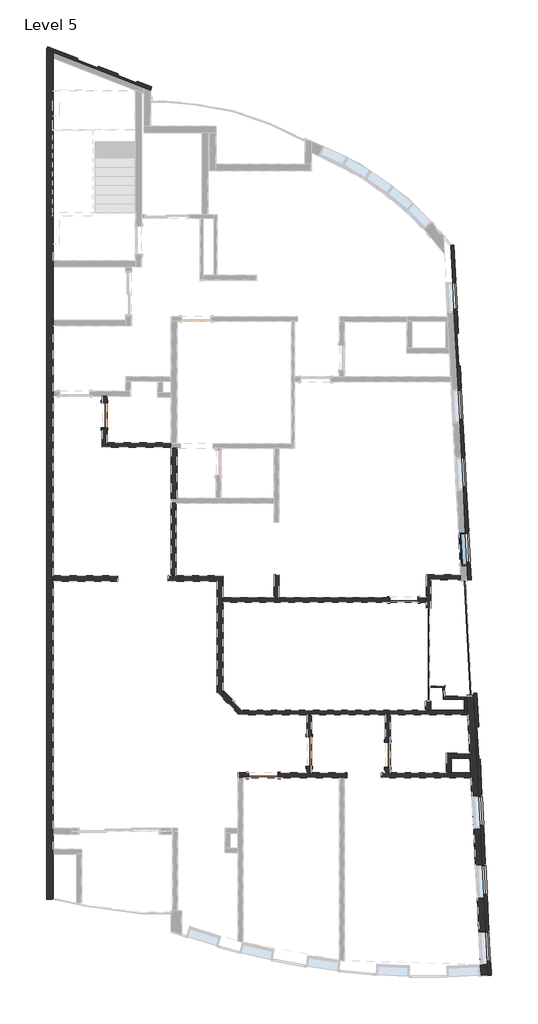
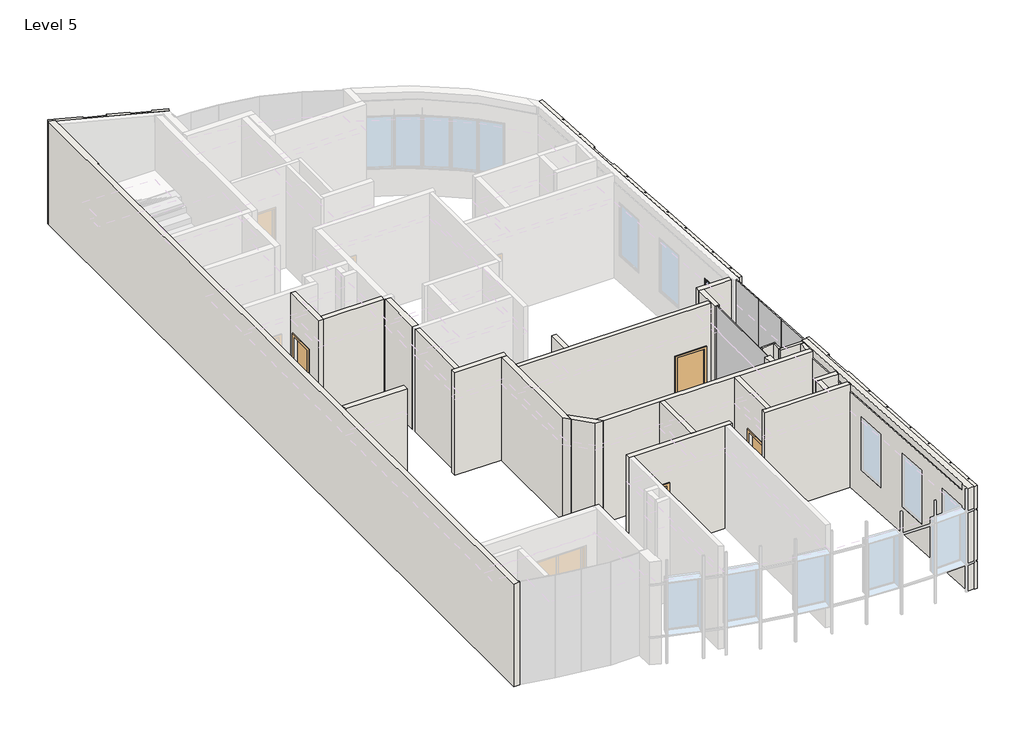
# One storey, part 2 of 5: 28 walls, 5 doors, 4 plates, 1 window.
"""IFC4 building model written with IfcOpenShell, lengths in millimetres."""

from ifc_helpers import new_model, si_unit, frame, origin, place, context, project, spatial, polyline, circle_curve, outline, extrude, faceted_brep, transform, mapped, element, save
from ifc_brep_helpers import plane_surface, cylinder_surface, revolved_surface, advanced_brep
from components import m_single_flush_0762_x_2134mm_8c18b9de, m_single_flush_0762_x_2134mm_1533e4c5, m_single_flush_0864_x_2032mm_5b632350, m_single_flush_0915_x_2134mm_138fd904, system_panel_glazed_de1ac752, system_panel_glazed_2b276406, system_panel_glazed_4e3138d7, wall_fe2dcc62, wall_89598529, m_fixed_1000_x_1830mm_2_3397196e

model = new_model("IFC4")

# Units and contexts
model_context = context("Model", 3, world=origin())
ifc_project = project(units=[si_unit("LENGTHUNIT", "METRE", prefix="MILLI")], contexts=[model_context])

# Site, building, storey
site = spatial("IfcSite", under=ifc_project)
building = spatial("IfcBuilding", under=site)
storey = spatial("IfcBuildingStorey", under=building, Name="Level 5", Elevation=18500.0)

# Doors
placement = place(None, origin())
m_single_flush_0762_x_2134mm_shape = m_single_flush_0762_x_2134mm_8c18b9de(model_context)
element("IfcDoor", 1, ObjectType="M_Single-Flush : 0762 x 2134mm", at=placement, inside=storey, context=model_context, shape_type="MappedRepresentation", body=[
    mapped(m_single_flush_0762_x_2134mm_shape, transform((1524.9578776, 3975.8830582, 18500.0), x_axis=(0.0, 1.0, 0.0), y_axis=(-1.0, 0.0, 0.0), z_axis=(0.0, 0.0, 1.0))),
])
m_single_flush_0762_x_2134mm_2_shape = m_single_flush_0762_x_2134mm_1533e4c5(model_context)
element("IfcDoor", 2, ObjectType="M_Single-Flush : 0762 x 2134mm", at=placement, inside=storey, context=model_context, shape_type="MappedRepresentation", body=[
    mapped(m_single_flush_0762_x_2134mm_2_shape, transform((10205.2907737, -6412.7981953, 18500.0), x_axis=(0.0, -1.0, 0.0), y_axis=(1.0, 0.0, 0.0), z_axis=(0.0, 0.0, 1.0))),
])
m_single_flush_0864_x_2032mm_shape = m_single_flush_0864_x_2032mm_5b632350(model_context)
element("IfcDoor", 3, ObjectType="M_Single-Flush : 0864 x 2032mm", at=placement, inside=storey, context=model_context, shape_type="MappedRepresentation", body=[
    mapped(m_single_flush_0864_x_2032mm_shape, transform((10697.9578778, -1678.9547298, 18500.0), x_axis=(1.0, 0.0, 0.0), y_axis=(0.0, 1.0, 0.0), z_axis=(0.0, 0.0, 1.0))),
])
m_single_flush_0915_x_2134mm_shape = m_single_flush_0915_x_2134mm_138fd904(model_context)
element("IfcDoor", 4, ObjectType="M_Single-Flush : 0915 x 2134mm", at=placement, inside=storey, context=model_context, shape_type="MappedRepresentation", body=[
    mapped(m_single_flush_0915_x_2134mm_shape, transform((6387.7907737, -7048.7981953, 18500.0), x_axis=(-1.0, 0.0, 0.0), y_axis=(0.0, -1.0, 0.0), z_axis=(0.0, 0.0, 1.0))),
])
element("IfcDoor", 5, ObjectType="M_Single-Flush : 0915 x 2134mm", at=placement, inside=storey, context=model_context, shape_type="MappedRepresentation", body=[
    mapped(m_single_flush_0915_x_2134mm_shape, transform((7795.2909314, -6316.2981953, 18500.0), x_axis=(0.0, -1.0, 0.0), y_axis=(1.0, 0.0, 0.0), z_axis=(0.0, 0.0, 1.0))),
])

# Plates
system_panel_glazed_shape = system_panel_glazed_de1ac752(model_context)
element("IfcPlate", 6, ObjectType="System Panel : Glazed", at=placement, inside=storey, context=model_context, shape_type="MappedRepresentation", body=[
    mapped(system_panel_glazed_shape, transform((12744.4041239, -4004.5629241, 18500.0), x_axis=(-0.05083502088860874, 0.9987070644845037, 0.0), y_axis=(-0.9987070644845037, -0.05083502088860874, 0.0), z_axis=(0.0, 0.0, 1.0))),
])
element("IfcPlate", 7, ObjectType="System Panel : Glazed", at=placement, inside=storey, context=model_context, shape_type="MappedRepresentation", body=[
    mapped(system_panel_glazed_shape, transform((12685.4354997, -2846.0627293, 18500.0), x_axis=(-0.05083502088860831, 0.9987070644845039, 0.0), y_axis=(-0.9987070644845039, -0.05083502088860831, 0.0), z_axis=(0.0, 0.0, 1.0))),
])
system_panel_glazed_2_shape = system_panel_glazed_2b276406(model_context)
element("IfcPlate", 8, ObjectType="System Panel : Glazed", at=placement, inside=storey, context=model_context, shape_type="MappedRepresentation", body=[
    mapped(system_panel_glazed_2_shape, transform((12626.3225461, -1684.727034, 18500.0), x_axis=(-0.05083502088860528, 0.998707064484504, 0.0), y_axis=(-0.998707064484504, -0.05083502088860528, 0.0), z_axis=(0.0, 0.0, 1.0))),
])
system_panel_glazed_3_shape = system_panel_glazed_4e3138d7(model_context)
element("IfcPlate", 9, ObjectType="System Panel : Glazed", at=placement, inside=storey, context=model_context, shape_type="MappedRepresentation", body=[
    mapped(system_panel_glazed_3_shape, transform((11490.9685725, -3358.899384, 18500.0), x_axis=(0.0, 1.0, 0.0), y_axis=(-1.0, 0.0, 0.0), z_axis=(0.0, 0.0, 1.0))),
])

# Walls
element("IfcWall", 10, ObjectType="Generic - 15cm-gypsu-2boith", at=placement, inside=storey, context=model_context, shape_type="Brep", body=[
    faceted_brep([(11349.9578778, -1603.9547298, 18500.0), (11129.9578778, -1603.9547298, 18500.0), (11129.9578778, -1603.9547298, 20532.0), (10265.9578778, -1603.9547298, 20532.0), (10265.9578778, -1603.9547298, 18500.0), (6869.9578779, -1603.9547298, 18500.0), (6719.9578779, -1603.9547298, 18500.0), (5149.9578778, -1603.9547298, 18500.0), (5149.9578778, -1603.9547298, 22000.0), (6719.9578779, -1603.9547298, 22000.0), (6869.9578779, -1603.9547298, 22000.0), (11349.9578778, -1603.9547298, 22000.0), (11129.9578778, -1753.9547298, 20532.0), (11129.9578778, -1753.9547298, 18500.0), (11349.9578778, -1753.9547298, 18500.0), (11349.9578778, -1753.9547298, 22000.0), (5149.9578778, -1753.9547298, 22000.0), (5149.9578778, -1753.9547298, 18500.0), (10265.9578778, -1753.9547298, 18500.0), (10265.9578778, -1753.9547298, 20532.0)], [[[0, 1, 2, 3, 4, 5, 6, 7, 8, 9, 10, 11]], [[12, 13, 14, 15, 16, 17, 18, 19]], [[18, 17, 7, 6, 5, 4]], [[14, 13, 1, 0]], [[11, 10, 9, 8, 16, 15]], [[0, 11, 15, 14]], [[8, 7, 17, 16]], [[2, 1, 13, 12]], [[3, 2, 12, 19]], [[4, 3, 19, 18]]]),
])
element("IfcWall", 11, ObjectType="Generic - 15cm-gypsu-2boith", at=placement, inside=storey, context=model_context, shape_type="Brep", body=[
    faceted_brep([(12423.9334548, -903.8603265, 18500.0), (11379.9578778, -903.8603265, 18500.0), (11379.9578778, -903.8603265, 22000.0), (12423.9334548, -903.8603265, 22000.0), (12423.9334548, -1053.8603265, 18500.0), (12423.9334548, -1053.8603265, 22000.0), (11529.9578778, -1053.8603265, 22000.0), (11379.9578778, -1053.8603265, 22000.0), (11379.9578778, -1053.8603265, 18500.0), (11529.9578778, -1053.8603265, 18500.0)], [[[0, 1, 2, 3]], [[4, 5, 6, 7, 8, 9]], [[1, 0, 4, 9, 8]], [[3, 2, 7, 6, 5]], [[0, 3, 5, 4]], [[2, 1, 8, 7]]]),
])
element("IfcWall", 12, ObjectType="Generic - 15cm-gypsu-2boith", at=placement, inside=storey, context=model_context, shape_type="SweptSolid", body=[
    extrude(outline(polyline([(11379.9578778, -1933.9547288), (11379.9578778, -1053.8603265), (11529.9578778, -1053.8603265), (11529.9578778, -1933.9547288), (11379.9578778, -1933.9547288)])), frame((0.0, 0.0, 18500.0), z_axis=(0.0, 0.0, 1.0), x_axis=(1.0, 0.0, 0.0)), (0.0, 0.0, 1.0), 3500.0),
])
element("IfcWall", 13, ObjectType="Generic - 15cm-gypsu-2boith", at=placement, inside=storey, context=model_context, shape_type="SweptSolid", body=[
    extrude(outline(polyline([(3569.9578779, -933.1221936), (3569.9578779, 1276.8778064), (3719.9578779, 1276.8778064), (3719.9578779, -933.1221936), (3569.9578779, -933.1221936)])), frame((0.0, 0.0, 18500.0), z_axis=(0.0, 0.0, 1.0), x_axis=(1.0, 0.0, 0.0)), (0.0, 0.0, 1.0), 3500.0),
])
element("IfcWall", 14, ObjectType="Generic - 18cm-gypsu-2boith 2", at=placement, inside=storey, context=model_context, shape_type="Brep", body=[
    faceted_brep([(5149.9578778, -933.1221936, 18500.0), (3719.9578779, -933.1221936, 18500.0), (3569.9578779, -933.1221936, 18500.0), (3473.9578779, -933.1221936, 18500.0), (3473.9578779, -933.1221936, 22000.0), (3569.9578779, -933.1221936, 22000.0), (3719.9578779, -933.1221936, 22000.0), (5149.9578778, -933.1221936, 22000.0), (5149.9578778, -1113.1221936, 18500.0), (5149.9578778, -1113.1221936, 22000.0), (4969.9578778, -1113.1221936, 22000.0), (3473.9578779, -1113.1221936, 22000.0), (3473.9578779, -1113.1221936, 18500.0), (4969.9578778, -1113.1221936, 18500.0)], [[[0, 1, 2, 3, 4, 5, 6, 7]], [[8, 9, 10, 11, 12, 13]], [[3, 2, 1, 0, 8, 13, 12]], [[4, 3, 12, 11]], [[7, 6, 5, 4, 11, 10, 9]], [[0, 7, 9, 8]]]),
])
element("IfcWall", 15, ObjectType="Generic - 18cm-gypsu-2boith 2", at=placement, inside=storey, context=model_context, shape_type="Brep", body=[
    faceted_brep([(4969.9578778, -1113.1221936, 18500.0), (4969.9578778, -4517.9715169, 18500.0), (4969.9578778, -4517.9715169, 22000.0), (4969.9578778, -1113.1221936, 22000.0), (5149.9578778, -1113.1221936, 18500.0), (5149.9578778, -1113.1221936, 22000.0), (5149.9578778, -1603.9547298, 22000.0), (5149.9578778, -1753.9547298, 22000.0), (5149.9578778, -4443.9569428, 22000.0), (5149.9578778, -4699.8400417, 22000.0), (5149.9578778, -4699.8400417, 18500.0), (5149.9578778, -4443.9569428, 18500.0), (5149.9578778, -1753.9547298, 18500.0), (5149.9578778, -1603.9547298, 18500.0)], [[[0, 1, 2, 3]], [[4, 5, 6, 7, 8, 9, 10, 11, 12, 13]], [[1, 0, 4, 13, 12, 11, 10]], [[3, 2, 9, 8, 7, 6, 5]], [[2, 1, 10, 9]], [[0, 3, 5, 4]]]),
])
element("IfcWall", 16, ObjectType="Generic - 18cm-gypsu-2boith 2", at=placement, inside=storey, context=model_context, shape_type="Brep", body=[
    faceted_brep([(5149.9578778, -4699.8400417, 18500.0), (5643.7897147, -5198.7981953, 18500.0), (5643.7897147, -5198.7981953, 22000.0), (5149.9578778, -4699.8400417, 22000.0), (5149.9578778, -4443.9569428, 18500.0), (5149.9578778, -4443.9569428, 22000.0), (5748.5849662, -5048.7981953, 22000.0), (5897.04386, -5198.7981953, 22000.0), (5897.04386, -5198.7981953, 18500.0), (5748.5849662, -5048.7981953, 18500.0)], [[[0, 1, 2, 3]], [[4, 5, 6, 7, 8, 9]], [[1, 0, 4, 9, 8]], [[3, 2, 7, 6, 5]], [[0, 3, 5, 4]], [[2, 1, 8, 7]]]),
])
element("IfcWall", 17, ObjectType="Generic - 15cm-granit&gypsum", at=placement, inside=storey, context=model_context, shape_type="Brep", body=[
    faceted_brep([(12647.2976465, -5048.7981953, 18500.0), (12641.1322496, -5048.7981953, 18500.0), (12541.1322496, -5048.7981953, 18500.0), (11529.9578778, -5048.7981953, 18500.0), (11349.9578778, -5048.7981953, 18500.0), (5748.5849662, -5048.7981953, 18500.0), (5748.5849662, -5048.7981953, 22000.0), (11349.9578778, -5048.7981953, 22000.0), (11529.9578778, -5048.7981953, 22000.0), (12541.1322496, -5048.7981953, 22000.0), (12641.1322496, -5048.7981953, 22000.0), (12647.2976465, -5048.7981953, 22000.0), (12654.9327714, -5198.7981953, 18500.0), (12654.9327714, -5198.7981953, 22000.0), (10280.2907737, -5198.7981953, 22000.0), (10130.2907737, -5198.7981953, 22000.0), (7870.2909314, -5198.7981953, 22000.0), (7720.2909314, -5198.7981953, 22000.0), (5897.04386, -5198.7981953, 22000.0), (5897.04386, -5198.7981953, 18500.0), (7720.2909314, -5198.7981953, 18500.0), (7870.2909314, -5198.7981953, 18500.0), (10130.2907737, -5198.7981953, 18500.0), (10280.2907737, -5198.7981953, 18500.0)], [[[0, 1, 2, 3, 4, 5, 6, 7, 8, 9, 10, 11]], [[12, 13, 14, 15, 16, 17, 18, 19, 20, 21, 22, 23]], [[5, 4, 3, 2, 1, 0, 12, 23, 22, 21, 20, 19]], [[11, 10, 9, 8, 7, 6, 18, 17, 16, 15, 14, 13]], [[6, 5, 19, 18]], [[0, 11, 13, 12]]]),
])
element("IfcWall", 18, ObjectType="Generic - 15cm-gypsu-2boith", at=placement, inside=storey, context=model_context, shape_type="SweptSolid", body=[
    extrude(outline(polyline([(-6773.7981953, 20634.0), (-6773.7981953, 18500.0), (-6973.7981953, 18500.0), (-6973.7981953, 22000.0), (-5198.7981953, 22000.0), (-5198.7981953, 18500.0), (-5858.7981953, 18500.0), (-5858.7981953, 20634.0), (-6773.7981953, 20634.0)])), frame((7720.2909314, 0.0, 0.0), z_axis=(1.0, 0.0, 0.0), x_axis=(0.0, 1.0, 0.0)), (0.0, 0.0, 1.0), 150.0),
])
element("IfcWall", 19, ObjectType="Generic - 15cm-granit&gypsum", at=placement, inside=storey, context=model_context, shape_type="Brep", body=[
    faceted_brep([(12745.2817489, -6973.7981953, 18500.0), (12147.4732011, -6973.7981953, 18500.0), (11997.4732011, -6973.7981953, 18500.0), (10280.2907737, -6973.7981953, 18500.0), (10130.2907737, -6973.7981953, 18500.0), (10005.6168737, -6973.7981953, 18500.0), (10005.6168737, -6973.7981953, 22000.0), (10130.2907737, -6973.7981953, 22000.0), (10280.2907737, -6973.7981953, 22000.0), (11997.4732011, -6973.7981953, 22000.0), (12147.4732011, -6973.7981953, 22000.0), (12745.2817489, -6973.7981953, 22000.0), (12752.9168737, -7123.7981953, 18500.0), (12752.9168737, -7123.7981953, 22000.0), (10005.6168737, -7123.7981953, 22000.0), (10005.6168737, -7123.7981953, 18500.0)], [[[0, 1, 2, 3, 4, 5, 6, 7, 8, 9, 10, 11]], [[12, 13, 14, 15]], [[5, 4, 3, 2, 1, 0, 12, 15]], [[6, 5, 15, 14]], [[11, 10, 9, 8, 7, 6, 14, 13]], [[0, 11, 13, 12]]]),
])
element("IfcWall", 20, ObjectType="Generic - 15cm-gypsu-2boith", at=placement, inside=storey, context=model_context, shape_type="Brep", body=[
    faceted_brep([(12714.7412494, -6373.7981953, 18500.0), (11997.4732011, -6373.7981953, 18500.0), (11997.4732011, -6373.7981953, 22000.0), (12714.7412494, -6373.7981953, 22000.0), (12722.3763743, -6523.7981953, 18500.0), (12722.3763743, -6523.7981953, 22000.0), (12147.4732011, -6523.7981953, 22000.0), (11997.4732011, -6523.7981953, 22000.0), (11997.4732011, -6523.7981953, 18500.0), (12147.4732011, -6523.7981953, 18500.0)], [[[0, 1, 2, 3]], [[4, 5, 6, 7, 8, 9]], [[1, 0, 4, 9, 8]], [[3, 2, 7, 6, 5]], [[0, 3, 5, 4]], [[2, 1, 8, 7]]]),
])
element("IfcWall", 21, ObjectType="Generic - 15cm-gypsu-2boith", at=placement, inside=storey, context=model_context, shape_type="SweptSolid", body=[
    extrude(outline(polyline([(11997.4732011, -6973.7981953), (11997.4732011, -6523.7981953), (12147.4732011, -6523.7981953), (12147.4732011, -6973.7981953), (11997.4732011, -6973.7981953)])), frame((0.0, 0.0, 18500.0), z_axis=(0.0, 0.0, 1.0), x_axis=(1.0, 0.0, 0.0)), (0.0, 0.0, 1.0), 3500.0),
])
element("IfcWall", 22, ObjectType="Generic - 10cm-gypsu-2boith", at=placement, inside=storey, context=model_context, shape_type="Brep", body=[
    faceted_brep([(11904.953185, -4724.0941461, 18500.0), (12541.1322496, -4725.6672919, 18500.0), (12641.1322496, -4725.9145722, 18500.0), (12641.1322496, -4725.9145722, 22000.0), (12541.1322496, -4725.6672919, 22000.0), (11904.953185, -4724.0941461, 22000.0), (11899.8624455, -4624.081252, 18500.0), (11899.8624455, -4624.081252, 22000.0), (11949.9334783, -4624.2050678, 22000.0), (12641.1322496, -4625.9142665, 22000.0), (12641.1322496, -4625.9142665, 18500.0), (11949.9334783, -4624.2050678, 18500.0)], [[[0, 1, 2, 3, 4, 5]], [[6, 7, 8, 9, 10, 11]], [[2, 1, 0, 6, 11, 10]], [[5, 4, 3, 9, 8, 7]], [[3, 2, 10, 9]], [[0, 5, 7, 6]]]),
])
element("IfcWall", 23, ObjectType="Generic - 10cm-gypsu-2boith", at=placement, inside=storey, context=model_context, shape_type="Brep", body=[
    faceted_brep([(12641.1322496, -5048.7981953, 18500.0), (12641.1322496, -4927.672536, 18500.0), (12641.1322496, -4725.9145722, 18500.0), (12641.1322496, -4725.9145722, 21759.0), (12641.1322496, -4725.9145722, 22000.0), (12641.1322496, -5048.7981953, 22000.0), (12541.1322496, -5048.7981953, 18500.0), (12541.1322496, -5048.7981953, 22000.0), (12541.1322496, -4725.6672919, 22000.0), (12541.1322496, -4725.6672919, 18500.0), (12630.8613086, -4725.8891742, 18500.0)], [[[0, 1, 2, 3, 4, 5]], [[6, 7, 8, 9]], [[2, 1, 0, 6, 9, 10]], [[5, 4, 8, 7]], [[4, 3, 2, 10, 9, 8]], [[0, 5, 7, 6]]]),
])
element("IfcWall", 24, ObjectType="Antick", at=placement, inside=storey, context=model_context, shape_type="SweptSolid", body=[
    extrude(outline(polyline([(11899.8624455, -4624.081252), (11885.9208288, -4350.1836358), (11935.856182, -4347.6418848), (11949.9334783, -4624.2050678), (11899.8624455, -4624.081252)])), frame((0.0, 0.0, 18500.0), z_axis=(0.0, 0.0, 1.0), x_axis=(1.0, 0.0, 0.0)), (0.0, 0.0, 1.0), 3500.0),
])
element("IfcWall", 25, ObjectType="Antick", at=placement, inside=storey, context=model_context, shape_type="Brep", body=[
    faceted_brep([(11506.4121443, -4369.5009438, 18500.0), (11885.9208288, -4350.1836358, 18500.0), (11935.856182, -4347.6418848, 18500.0), (11955.8303233, -4346.6251844, 18500.0), (11955.8303233, -4346.6251844, 22000.0), (11935.856182, -4347.6418848, 22000.0), (11885.9208288, -4350.1836358, 22000.0), (11506.4121443, -4369.5009438, 22000.0), (11503.8703933, -4319.5655905, 18500.0), (11503.8703933, -4319.5655905, 22000.0), (11953.2885723, -4296.6898311, 22000.0), (11953.2885723, -4296.6898311, 18500.0)], [[[0, 1, 2, 3, 4, 5, 6, 7]], [[8, 9, 10, 11]], [[3, 2, 1, 0, 8, 11]], [[4, 3, 11, 10]], [[7, 6, 5, 4, 10, 9]], [[0, 7, 9, 8]]]),
])
element("IfcWall", 26, ObjectType="Generic - 18cm-gypsu-2boith 2", at=placement, inside=storey, context=model_context, shape_type="SweptSolid", body=[
    extrude(outline(polyline([(11529.9578778, -4783.8440392), (11529.9578778, -5048.7981953), (11349.9578778, -5048.7981953), (11349.9578778, -4783.8440392), (11529.9578778, -4783.8440392)])), frame((0.0, 0.0, 18500.0), z_axis=(0.0, 0.0, 1.0), x_axis=(1.0, 0.0, 0.0)), (0.0, 0.0, 1.0), 3500.0),
])
element("IfcWall", 27, ObjectType="Generic - 15cm-granit&gypsum", at=placement, inside=storey, context=model_context, shape_type="Brep", body=[
    faceted_brep([(1599.9578776, 4356.8830582, 20634.0), (1599.9578776, 4356.8830582, 18500.0), (1599.9578776, 4556.8830582, 18500.0), (1599.9578776, 4556.8830582, 22000.0), (1599.9578776, 3136.8778064, 22000.0), (1599.9578776, 2986.8778064, 22000.0), (1599.9578776, 2986.8778064, 18500.0), (1599.9578776, 3136.8778064, 18500.0), (1599.9578776, 3594.8830582, 18500.0), (1599.9578776, 3594.8830582, 20634.0), (1449.9578776, 4556.8830582, 18500.0), (1449.9578776, 4356.8830582, 18500.0), (1449.9578776, 4356.8830582, 20634.0), (1449.9578776, 3594.8830582, 20634.0), (1449.9578776, 3594.8830582, 18500.0), (1449.9578776, 2986.8778064, 18500.0), (1449.9578776, 2986.8778064, 22000.0), (1449.9578776, 4556.8830582, 22000.0)], [[[0, 1, 2, 3, 4, 5, 6, 7, 8, 9]], [[10, 11, 12, 13, 14, 15, 16, 17]], [[2, 1, 11, 10]], [[8, 7, 6, 15, 14]], [[5, 4, 3, 17, 16]], [[3, 2, 10, 17]], [[6, 5, 16, 15]], [[12, 11, 1, 0]], [[13, 12, 0, 9]], [[14, 13, 9, 8]]]),
])
element("IfcWall", 28, ObjectType="Generic - 18cm-gypsu-2boith 2", at=placement, inside=storey, context=model_context, shape_type="SweptSolid", body=[
    extrude(outline(polyline([(3569.9578779, 1426.8778064), (3569.9578779, 2956.8778064), (3749.9578779, 2956.8778064), (3749.9578779, 1426.8778064), (3569.9578779, 1426.8778064)])), frame((0.0, 0.0, 18500.0), z_axis=(0.0, 0.0, 1.0), x_axis=(1.0, 0.0, 0.0)), (0.0, 0.0, 1.0), 3500.0),
])
element("IfcWall", 29, ObjectType="Generic - 15cm-granit&gypsum", at=placement, inside=storey, context=model_context, shape_type="SweptSolid", body=[
    extrude(outline(polyline([(1599.9578776, 3136.8778064), (3549.9578779, 3136.8778064), (3549.9578779, 2986.8778064), (1599.9578776, 2986.8778064), (1599.9578776, 3136.8778064)])), frame((0.0, 0.0, 18500.0), z_axis=(0.0, 0.0, 1.0), x_axis=(1.0, 0.0, 0.0)), (0.0, 0.0, 1.0), 3500.0),
])
element("IfcWall", 30, ObjectType="Generic - 18cm-gypsu-2boith 2", at=placement, inside=storey, context=model_context, shape_type="SweptSolid", body=[
    extrude(outline(polyline([(-50.0421304, -933.1221936), (1933.9578781, -933.1221936), (1933.9578781, -1113.1221936), (-50.0421304, -1113.1221936), (-50.0421304, -933.1221936)])), frame((0.0, 0.0, 18500.0), z_axis=(0.0, 0.0, 1.0), x_axis=(1.0, 0.0, 0.0)), (0.0, 0.0, 1.0), 3500.0),
])
element("IfcWall", 31, ObjectType="Generic - 15cm-granit&gypsum", at=placement, inside=storey, context=model_context, shape_type="Brep", body=[
    faceted_brep([(5930.2907737, -6973.7981953, 20634.0), (5930.2907737, -6973.7981953, 18500.0), (5620.2907737, -6973.7981953, 18500.0), (5620.2907737, -6973.7981953, 22000.0), (7720.2909314, -6973.7981953, 22000.0), (7870.2909314, -6973.7981953, 22000.0), (8947.5168737, -6973.7981953, 22000.0), (8947.5168737, -6973.7981953, 18500.0), (7870.2909314, -6973.7981953, 18500.0), (7720.2909314, -6973.7981953, 18500.0), (6845.2907737, -6973.7981953, 18500.0), (6845.2907737, -6973.7981953, 20634.0), (5620.2907737, -7123.7981953, 18500.0), (5770.2907737, -7123.7981953, 18500.0), (5930.2907737, -7123.7981953, 18500.0), (5930.2907737, -7123.7981953, 20634.0), (6845.2907737, -7123.7981953, 20634.0), (6845.2907737, -7123.7981953, 18500.0), (8720.2907737, -7123.7981953, 18500.0), (8870.2907737, -7123.7981953, 18500.0), (8947.5168737, -7123.7981953, 18500.0), (8947.5168737, -7123.7981953, 22000.0), (8870.2907737, -7123.7981953, 22000.0), (8720.2907737, -7123.7981953, 22000.0), (5770.2907737, -7123.7981953, 22000.0), (5620.2907737, -7123.7981953, 22000.0)], [[[0, 1, 2, 3, 4, 5, 6, 7, 8, 9, 10, 11]], [[12, 13, 14, 15, 16, 17, 18, 19, 20, 21, 22, 23, 24, 25]], [[2, 1, 14, 13, 12]], [[10, 9, 8, 7, 20, 19, 18, 17]], [[6, 5, 4, 3, 25, 24, 23, 22, 21]], [[7, 6, 21, 20]], [[3, 2, 12, 25]], [[17, 16, 11, 10]], [[16, 15, 0, 11]], [[15, 14, 1, 0]]]),
])
element("IfcWall", 32, ObjectType="Generic - 15cm-granit&gypsum", at=placement, inside=storey, context=model_context, shape_type="SweptSolid", body=[
    extrude(outline(polyline([(6719.9578779, -1603.9547298), (6719.9578779, -903.9547298), (6869.9578779, -903.9547298), (6869.9578779, -1603.9547298), (6719.9578779, -1603.9547298)])), frame((0.0, 0.0, 18500.0), z_axis=(0.0, 0.0, 1.0), x_axis=(1.0, 0.0, 0.0)), (0.0, 0.0, 1.0), 3500.0),
])
wall_shape = wall_fe2dcc62(model_context)
element("IfcWall", 33, ObjectType="kamposite6 : kamposite", at=placement, inside=storey, context=model_context, shape_type="MappedRepresentation", body=[
    mapped(wall_shape, transform((-2.0334008, 39.9482826, 2000.0), x_axis=(1.0, 0.0, 0.0), y_axis=(0.0, 1.0, 0.0), z_axis=(0.0, 0.0, 1.0))),
])
wall_2_shape = wall_89598529(model_context)
element("IfcWall", 34, ObjectType="kamposite7 : kamposite2", at=placement, inside=storey, context=model_context, shape_type="MappedRepresentation", body=[
    mapped(wall_2_shape, transform((0.0, 0.0, 2000.0), x_axis=(1.0, 0.0, 0.0), y_axis=(0.0, 1.0, 0.0), z_axis=(0.0, 0.0, 1.0))),
])
element("IfcWall", 35, ObjectType="Generic - 15cm-granit 2", at=placement, inside=storey, context=model_context, shape_type="SweptSolid", body=[
    extrude(outline(polyline([(-6793.7981953, 20634.0), (-6793.7981953, 18500.0), (-6973.7981953, 18500.0), (-6973.7981953, 22000.0), (-5198.7981953, 22000.0), (-5198.7981953, 18500.0), (-6031.7981953, 18500.0), (-6031.7981953, 20634.0), (-6793.7981953, 20634.0)])), frame((10130.2907737, 0.0, 0.0), z_axis=(1.0, 0.0, 0.0), x_axis=(0.0, 1.0, 0.0)), (0.0, 0.0, 1.0), 150.0),
])
element("IfcWall", 36, ObjectType="Generic - 20cm-gypsum", at=placement, inside=storey, context=model_context, shape_type="Brep", body=[
    faceted_brep([(-50.0421304, -10845.40247, 18500.0), (-50.0421304, -9462.1185157, 18500.0), (-50.0421304, -9312.1185157, 18500.0), (-50.0421304, -8842.2362629, 18500.0), (-50.0421304, -8662.2362629, 18500.0), (-50.0421304, -1113.1221936, 18500.0), (-50.0421304, -933.1221936, 18500.0), (-50.0421304, 4556.8830582, 18500.0), (-50.0421304, 4706.8830582, 18500.0), (-50.0421304, 6706.8748838, 18500.0), (-50.0421304, 6886.8748838, 18500.0), (-50.0421304, 8516.8748746, 18500.0), (-50.0421304, 8696.8748746, 18500.0), (-50.0421304, 14901.0479686, 18500.0), (-50.0421304, 15115.5710671, 18500.0), (-50.0421304, 15115.5710671, 22000.0), (-50.0421304, 14901.0479686, 22000.0), (-50.0421304, 12688.8107611, 22000.0), (-50.0421304, 12688.8107611, 21759.0), (-50.0421304, -10787.9093736, 21759.0), (-50.0421304, -10787.9093736, 22000.0), (-50.0421304, -10845.40247, 22000.0), (-250.0421304, 15193.1607555, 18500.0), (-250.0421304, -10845.40247, 18500.0), (-250.0421304, -10845.40247, 22000.0), (-250.0421304, 15193.1607555, 22000.0), (-80.0421304, -10781.5326767, 22000.0), (-80.0421304, 12688.8107611, 22000.0), (-80.0421304, 12688.8107611, 21759.0), (-80.0421304, -10781.5326767, 21759.0)], [[[0, 1, 2, 3, 4, 5, 6, 7, 8, 9, 10, 11, 12, 13, 14, 15, 16, 17, 18, 19, 20, 21]], [[22, 23, 24, 25]], [[14, 13, 12, 11, 10, 9, 8, 7, 6, 5, 4, 3, 2, 1, 0, 23, 22]], [[25, 24, 21, 20, 26, 27, 17, 16, 15]], [[0, 21, 24, 23]], [[15, 14, 22, 25]], [[28, 29, 19, 18]], [[29, 26, 20, 19]], [[29, 28, 27, 26]], [[27, 28, 18, 17]]]),
])
element("IfcWall", 37, ObjectType="Generic - 20cm-gypsum", at=placement, inside=storey, context=model_context, shape_type="AdvancedBrep", body=[
    advanced_brep(
    [(12624.0178131, -4591.441561, 18500.0), (12630.8613086, -4725.8891742, 18500.0), (12630.8613086, -4725.8891742, 21759.0), (12624.0178131, -4591.441561, 21759.0), (12641.1322496, -4927.672536, 18500.0), (12647.2976465, -5048.7981953, 18500.0), (12654.9327714, -5198.7981953, 18500.0), (12714.7412494, -6373.7981953, 18500.0), (12722.3763743, -6523.7981953, 18500.0), (12745.2817489, -6973.7981953, 18500.0), (12752.9168737, -7123.7981953, 18500.0), (13044.0399551, -12843.2151043, 18500.0), (13060.3079076, -13162.8160173, 18500.0), (13060.3079076, -13162.8160173, 19401.1018524), (13059.0369746, -13137.84721, 19401.1018524), (13059.0369746, -13137.84721, 19451.1018524), (13060.3079076, -13162.8160173, 19451.1018524), (13060.3079076, -13162.8160173, 21195.0), (13059.0369746, -13137.84721, 21195.0), (13059.0369746, -13137.84721, 21245.0), (13060.3079076, -13162.8160173, 21245.0), (13060.3079076, -13162.8160173, 22000.0), (13045.5650765, -12873.1777067, 22000.0), (13045.5650765, -12873.1777067, 21759.0), (13044.0399551, -12843.2151043, 21759.0), (12641.1322496, -4927.672536, 21759.0), (13044.1204917, -12844.7973291, 19400.0), (12993.2854708, -11846.0902646, 19400.0), (12993.2854708, -11846.0902646, 21230.0), (13044.1204917, -12844.7973291, 21230.0), (12939.9086989, -10797.4478469, 19400.0), (12889.073678, -9798.7407824, 19400.0), (12889.073678, -9798.7407824, 21230.0), (12939.9086989, -10797.4478469, 21230.0), (12832.6468048, -8690.1759409, 19400.0), (12781.8117839, -7691.4688764, 19400.0), (12781.8117839, -7691.4688764, 21230.0), (12832.6468048, -8690.1759409, 21230.0), (12823.759226, -4581.2745568, 22000.0), (13259.9103282, -13149.9183632, 22000.0), (13259.9103282, -13149.9183632, 21245.0), (13258.6392504, -13124.9467139, 21245.0), (13258.6392504, -13124.9467139, 21195.0), (13259.9103282, -13149.9183632, 21195.0), (13259.9103282, -13149.9183632, 19451.1018524), (13258.6392504, -13124.9467139, 19451.1018524), (13258.6392504, -13124.9467139, 19401.1018524), (13259.9103282, -13149.9183632, 19401.1018524), (13259.9103282, -13149.9183632, 18500.0), (12823.759226, -4581.2745568, 18500.0), (13193.0268837, -11835.9232605, 19400.0), (13243.8619046, -12834.6303249, 19400.0), (13243.8619046, -12834.6303249, 21230.0), (13193.0268837, -11835.9232605, 21230.0), (13088.8150909, -9788.5737783, 19400.0), (13139.6501118, -10787.2808427, 19400.0), (13139.6501118, -10787.2808427, 21230.0), (13088.8150909, -9788.5737783, 21230.0), (12981.5531968, -7681.3018722, 19400.0), (13032.3882177, -8680.0089367, 19400.0), (13032.3882177, -8680.0089367, 21230.0), (12981.5531968, -7681.3018722, 21230.0), (12653.9790251, -4589.9165104, 22000.0), (13075.5106422, -12871.3452698, 22000.0), (12641.1322496, -4725.9145722, 18500.0), (12653.9790251, -4589.9165104, 21759.0), (12641.1322496, -4725.9145722, 21759.0), (13075.5106422, -12871.3452698, 21759.0)],
    [
        (0, 1),
        (1, 2),
        (2, 3),
        (3, 0),
        (4, 5),
        (5, 6),
        (6, 7),
        (7, 8),
        (8, 9),
        (9, 10),
        (10, 11),
        (11, 12),
        (12, 13),
        (13, 14),
        (14, 15),
        (15, 16),
        (16, 17),
        (17, 18),
        (18, 19),
        (19, 20),
        (20, 21),
        (21, 22),
        (22, 23),
        (23, 24),
        (24, 25),
        (25, 4),
        (26, 27),
        (27, 28),
        (28, 29),
        (29, 26),
        (30, 31),
        (31, 32),
        (32, 33),
        (33, 30),
        (34, 35),
        (35, 36),
        (36, 37),
        (37, 34),
        (38, 39),
        (39, 40),
        (40, 41),
        (41, 42),
        (42, 43),
        (43, 44),
        (44, 45),
        (45, 46),
        (46, 47),
        (47, 48),
        (48, 49),
        (49, 38),
        (50, 51),
        (51, 52),
        (52, 53),
        (53, 50),
        (54, 55),
        (55, 56),
        (56, 57),
        (57, 54),
        (58, 59),
        (59, 60),
        (60, 61),
        (61, 58),
        (38, 62),
        (62, 63),
        (63, 22, circle_curve(frame((11609.3245394, 10843.3737526, 22000.0), z_axis=(0.0, 0.0, -1.0), x_axis=(1.0, 0.0, 0.0)), 23760.0)),
        (21, 39, circle_curve(frame((11609.3245394, 10843.3737526, 22000.0), z_axis=(0.0, 0.0, 1.0), x_axis=(-0.33468074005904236, -0.942331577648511, 0.0)), 24050.0)),
        (48, 12, circle_curve(frame((11609.3245394, 10843.3737526, 18500.0), z_axis=(0.0, 0.0, -1.0), x_axis=(-0.33468074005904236, -0.942331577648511, 0.0)), 24050.0)),
        (4, 64),
        (64, 1),
        (0, 49),
        (3, 65),
        (65, 62),
        (20, 40, circle_curve(frame((11609.3245394, 10843.3737526, 21245.0), z_axis=(0.0, 0.0, 1.0), x_axis=(-0.33468074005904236, -0.942331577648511, 0.0)), 24050.0)),
        (47, 13, circle_curve(frame((11609.3245394, 10843.3737526, 19401.1018524), z_axis=(0.0, 0.0, -1.0), x_axis=(-0.33468074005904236, -0.942331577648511, 0.0)), 24050.0)),
        (16, 44, circle_curve(frame((11609.3245394, 10843.3737526, 19451.1018524), z_axis=(0.0, 0.0, 1.0), x_axis=(-0.33468074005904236, -0.942331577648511, 0.0)), 24050.0)),
        (43, 17, circle_curve(frame((11609.3245394, 10843.3737526, 21195.0), z_axis=(0.0, 0.0, -1.0), x_axis=(-0.33468074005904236, -0.942331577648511, 0.0)), 24050.0)),
        (50, 27),
        (26, 51),
        (53, 28),
        (52, 29),
        (54, 31),
        (30, 55),
        (57, 32),
        (56, 33),
        (58, 35),
        (34, 59),
        (61, 36),
        (60, 37),
        (25, 66),
        (66, 64),
        (66, 2),
        (15, 45, circle_curve(frame((11609.3245394, 10843.3737526, 19451.1018524), z_axis=(0.0, 0.0, 1.0), x_axis=(0.06863142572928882, -0.9976420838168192, 0.0)), 24025.0)),
        (46, 14, circle_curve(frame((11609.3245394, 10843.3737526, 19401.1018524), z_axis=(0.0, 0.0, -1.0), x_axis=(0.06863142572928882, -0.9976420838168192, 0.0)), 24025.0)),
        (19, 41, circle_curve(frame((11609.3245394, 10843.3737526, 21245.0), z_axis=(0.0, 0.0, 1.0), x_axis=(0.06863142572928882, -0.9976420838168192, 0.0)), 24025.0)),
        (42, 18, circle_curve(frame((11609.3245394, 10843.3737526, 21195.0), z_axis=(0.0, 0.0, -1.0), x_axis=(0.06863142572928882, -0.9976420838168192, 0.0)), 24025.0)),
        (67, 65),
        (23, 67, circle_curve(frame((11609.3245394, 10843.3737526, 21759.0), z_axis=(0.0, 0.0, 1.0), x_axis=(1.0, 0.0, 0.0)), 23760.0)),
        (67, 63),
    ],
    [
        plane_surface(frame((13052.1146146, -13001.8502213, 22000.0), z_axis=(-0.9987070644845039, -0.05083502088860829, 0.0), x_axis=(-0.05083502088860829, 0.9987070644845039, 0.0))),
        plane_surface(frame((13251.8560275, -12991.6832171, 22000.0), z_axis=(0.9987070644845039, 0.05083502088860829, 0.0), x_axis=(0.05083502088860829, -0.9987070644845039, 0.0))),
        plane_surface(frame((13052.1146146, -13001.8502213, 22000.0), z_axis=(0.0, 0.0, 1.0), x_axis=(0.998707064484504, 0.050835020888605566, 0.0))),
        plane_surface(frame((12624.0178131, -4591.441561, 18500.0), z_axis=(0.0, 0.0, -1.0), x_axis=(0.998707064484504, 0.050835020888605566, 0.0))),
        plane_surface(frame((12624.0178131, -4591.441561, 22000.0), z_axis=(-0.050835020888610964, 0.9987070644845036, 0.0), x_axis=(0.9987070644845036, 0.050835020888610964, 0.0))),
        cylinder_surface(frame((11609.3245394, 10843.3737526, 18500.0), z_axis=(0.0, 0.0, 1.0), x_axis=(-0.33468074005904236, -0.942331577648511, 0.0)), 24050.0),
        plane_surface(frame((13193.0268837, -11835.9232605, 19400.0), z_axis=(0.0, 0.0, 1.0), x_axis=(-0.998707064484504, -0.050835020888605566, 0.0))),
        plane_surface(frame((13193.0268837, -11835.9232605, 21230.0), z_axis=(0.050835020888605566, -0.998707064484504, 0.0), x_axis=(-0.998707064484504, -0.050835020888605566, 0.0))),
        plane_surface(frame((13243.8619046, -12834.6303249, 21230.0), z_axis=(0.0, 0.0, -1.0), x_axis=(-0.998707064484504, -0.050835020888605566, 0.0))),
        plane_surface(frame((13243.8619046, -12834.6303249, 19400.0), z_axis=(-0.050835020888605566, 0.998707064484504, 0.0), x_axis=(-0.998707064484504, -0.050835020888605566, 0.0))),
        plane_surface(frame((13088.8150909, -9788.5737783, 19400.0), z_axis=(0.0, 0.0, 1.0), x_axis=(-0.998707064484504, -0.050835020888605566, 0.0))),
        plane_surface(frame((13088.8150909, -9788.5737783, 21230.0), z_axis=(0.050835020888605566, -0.998707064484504, 0.0), x_axis=(-0.998707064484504, -0.050835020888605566, 0.0))),
        plane_surface(frame((13139.6501118, -10787.2808427, 21230.0), z_axis=(0.0, 0.0, -1.0), x_axis=(-0.998707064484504, -0.050835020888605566, 0.0))),
        plane_surface(frame((13139.6501118, -10787.2808427, 19400.0), z_axis=(-0.050835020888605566, 0.998707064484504, 0.0), x_axis=(-0.998707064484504, -0.050835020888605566, 0.0))),
        plane_surface(frame((12981.5531968, -7681.3018722, 19400.0), z_axis=(0.0, 0.0, 1.0), x_axis=(-0.998707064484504, -0.050835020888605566, 0.0))),
        plane_surface(frame((12981.5531968, -7681.3018722, 21230.0), z_axis=(0.050835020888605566, -0.998707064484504, 0.0), x_axis=(-0.998707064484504, -0.050835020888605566, 0.0))),
        plane_surface(frame((13032.3882177, -8680.0089367, 21230.0), z_axis=(0.0, 0.0, -1.0), x_axis=(-0.998707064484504, -0.050835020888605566, 0.0))),
        plane_surface(frame((13032.3882177, -8680.0089367, 19400.0), z_axis=(-0.050835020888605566, 0.998707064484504, 0.0), x_axis=(-0.998707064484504, -0.050835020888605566, 0.0))),
        plane_surface(frame((12641.1322496, -4755.8842521, 18500.0), z_axis=(-1.0, 0.0, 0.0), x_axis=(0.0, 1.0, 0.0))),
        plane_surface(frame((11949.6861987, -4724.204762, 18500.0), z_axis=(-0.002472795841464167, -0.9999969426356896, 0.0), x_axis=(0.9999969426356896, -0.002472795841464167, 0.0))),
        plane_surface(frame((11609.3245394, 10843.3737526, 19451.1018524), z_axis=(0.0, 0.0, -1.0000000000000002), x_axis=(0.06863142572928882, -0.9976420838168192, 0.0))),
        plane_surface(frame((11609.3245394, 10843.3737526, 19401.1018524), z_axis=(0.0, 0.0, 1.0000000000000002), x_axis=(0.06863142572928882, -0.9976420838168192, 0.0))),
        cylinder_surface(frame((11609.3245394, 10843.3737526, 19426.1018524), z_axis=(0.0, 0.0, -1.0), x_axis=(0.06863142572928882, -0.9976420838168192, 0.0)), 24025.0),
        plane_surface(frame((11609.3245394, 10843.3737526, 21245.0), z_axis=(0.0, 0.0, -1.0000000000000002), x_axis=(0.06863142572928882, -0.9976420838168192, 0.0))),
        plane_surface(frame((11609.3245394, 10843.3737526, 21195.0), z_axis=(0.0, 0.0, 1.0000000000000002), x_axis=(0.06863142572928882, -0.9976420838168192, 0.0))),
        cylinder_surface(frame((11609.3245394, 10843.3737526, 21220.0), z_axis=(0.0, 0.0, -1.0), x_axis=(0.06863142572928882, -0.9976420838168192, 0.0)), 24025.0),
        plane_surface(frame((-80.0421304, 14944.8648867, 21759.0), z_axis=(0.0, 0.0, 1.0), x_axis=(0.9323005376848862, -0.36168454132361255, 0.0))),
        plane_surface(frame((12653.9790251, -4589.9165104, 21759.0), z_axis=(-0.9987070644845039, -0.05083502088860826, 0.0), x_axis=(0.0, 0.0, 1.0))),
        revolved_surface(polyline([(35369.3245394, 10843.3737526, 21759.0), (35369.3245394, 10843.3737526, 22000.0)]), (11609.3245394, 10843.3737526, 22000.0), (0.0, 0.0, -1.0)),
    ],
    [
        (0, [[1, 2, 3, 4]]),
        (0, [[5, 6, 7, 8, 9, 10, 11, 12, 13, 14, 15, 16, 17, 18, 19, 20, 21, 22, 23, 24, 25, 26], [27, 28, 29, 30], [31, 32, 33, 34], [35, 36, 37, 38]]),
        (1, [[39, 40, 41, 42, 43, 44, 45, 46, 47, 48, 49, 50], [51, 52, 53, 54], [55, 56, 57, 58], [59, 60, 61, 62]]),
        (2, [[-39, 63, 64, 65, -22, 66]]),
        (3, [[-49, 67, -12, -11, -10, -9, -8, -7, -6, -5, 68, 69, -1, 70]]),
        (4, [[-50, -70, -4, 71, 72, -63]]),
        (5, [[-66, -21, 73, -40]]),
        (5, [[-67, -48, 74, -13]]),
        (5, [[75, -44, 76, -17]]),
        (6, [[-51, 77, -27, 78]]),
        (7, [[-54, 79, -28, -77]]),
        (8, [[-53, 80, -29, -79]]),
        (9, [[-52, -78, -30, -80]]),
        (10, [[-55, 81, -31, 82]]),
        (11, [[-58, 83, -32, -81]]),
        (12, [[-57, 84, -33, -83]]),
        (13, [[-56, -82, -34, -84]]),
        (14, [[-59, 85, -35, 86]]),
        (15, [[-62, 87, -36, -85]]),
        (16, [[-61, 88, -37, -87]]),
        (17, [[-60, -86, -38, -88]]),
        (18, [[-68, -26, 89, 90]]),
        (19, [[-69, -90, 91, -2]]),
        (20, [[92, -45, -75, -16]]),
        (21, [[93, -14, -74, -47]]),
        (22, [[-92, -15, -93, -46]]),
        (23, [[94, -41, -73, -20]]),
        (24, [[95, -18, -76, -43]]),
        (25, [[-94, -19, -95, -42]]),
        (26, [[96, -71, -3, -91, -89, -25, -24, 97]]),
        (27, [[-96, 98, -64, -72]]),
        (28, [[-98, -97, -23, -65]]),
    ],
),
])

# Window
m_fixed_1000_x_1830mm_2_shape = m_fixed_1000_x_1830mm_2_3397196e(model_context)
element("IfcWindow", 38, ObjectType="M_Fixed : 1000 x 1830mm 2", at=placement, inside=storey, context=model_context, shape_type="MappedRepresentation", body=[
    mapped(m_fixed_1000_x_1830mm_2_shape, transform((12510.0987492, -130.5055762, 19095.0), x_axis=(-0.05083502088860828, 0.9987070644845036, 0.0), y_axis=(-0.9987070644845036, -0.05083502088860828, 0.0), z_axis=(0.0, 0.0, 1.0))),
])

save(model, "model.ifc")
